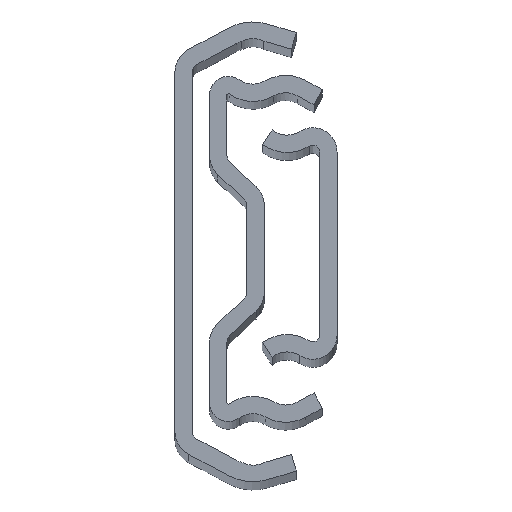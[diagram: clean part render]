
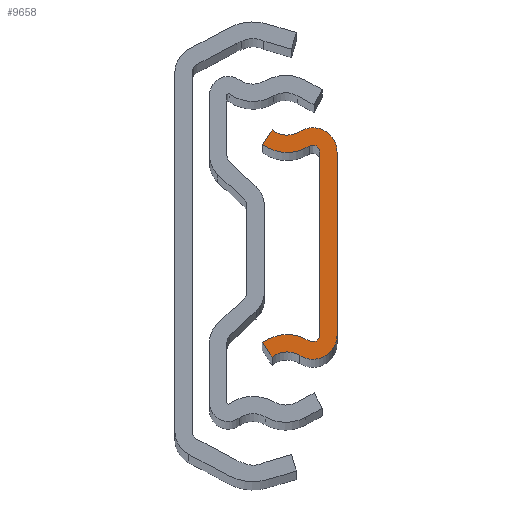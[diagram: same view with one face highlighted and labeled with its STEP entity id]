
A CAD part, top view. The second image highlights one B-rep face of the part: STEP entity #9658.
In plain terms, the highlighted planar face has unit normal (0, 0, 1).
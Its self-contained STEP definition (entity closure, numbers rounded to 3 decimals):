
#332 = CIRCLE ( 'NONE', #25369, 2.8 ) ;
#706 = CARTESIAN_POINT ( 'NONE',  ( 2.306, -10.55, 0. ) ) ;
#930 = LINE ( 'NONE', #8734, #22789 ) ;
#1476 = CARTESIAN_POINT ( 'NONE',  ( -4.306, -11.422, 0. ) ) ;
#1478 = CARTESIAN_POINT ( 'NONE',  ( -4.306, 11.422, 0. ) ) ;
#1995 = VERTEX_POINT ( 'NONE', #706 ) ;
#2570 = ORIENTED_EDGE ( 'NONE', *, *, #6383, .T. ) ;
#2677 = ORIENTED_EDGE ( 'NONE', *, *, #29699, .T. ) ;
#2701 = VERTEX_POINT ( 'NONE', #17587 ) ;
#3026 = ORIENTED_EDGE ( 'NONE', *, *, #22256, .T. ) ;
#3531 = DIRECTION ( 'NONE',  ( 0., -1., 0. ) ) ;
#3767 = ORIENTED_EDGE ( 'NONE', *, *, #20465, .T. ) ;
#3966 = FACE_OUTER_BOUND ( 'NONE', #13286, .T. ) ;
#5823 = DIRECTION ( 'NONE',  ( 0., 0., 1. ) ) ;
#6023 = VECTOR ( 'NONE', #10084, 1000. ) ;
#6180 = CARTESIAN_POINT ( 'NONE',  ( -3.194, -13.089, 0. ) ) ;
#6383 = EDGE_CURVE ( 'NONE', #11587, #34722, #29855, .T. ) ;
#6600 = VERTEX_POINT ( 'NONE', #34431 ) ;
#6978 = CARTESIAN_POINT ( 'NONE',  ( 4.306, -10.55, 0. ) ) ;
#7600 = VECTOR ( 'NONE', #9722, 1000. ) ;
#7649 = CARTESIAN_POINT ( 'NONE',  ( -1.47, -15.294, 0. ) ) ;
#7852 = CARTESIAN_POINT ( 'NONE',  ( 1.506, -10.55, 0. ) ) ;
#8734 = CARTESIAN_POINT ( 'NONE',  ( 2.306, -10.55, 0. ) ) ;
#8947 = CARTESIAN_POINT ( 'NONE',  ( -1.47, 15.294, 0. ) ) ;
#9142 = CARTESIAN_POINT ( 'NONE',  ( -1.47, -15.294, 0. ) ) ;
#9329 = DIRECTION ( 'NONE',  ( 0., 0., 1. ) ) ;
#9484 = VERTEX_POINT ( 'NONE', #17066 ) ;
#9658 = ADVANCED_FACE ( 'Face2', ( #3966 ), #10001, .T. ) ;
#9722 = DIRECTION ( 'NONE',  ( -0.555, -0.832, 0. ) ) ;
#9931 = VERTEX_POINT ( 'NONE', #30492 ) ;
#10001 = PLANE ( 'NONE',  #16508 ) ;
#10067 = DIRECTION ( 'NONE',  ( 0.555, -0.832, 0. ) ) ;
#10084 = DIRECTION ( 'NONE',  ( 0., 1., 0. ) ) ;
#10099 = EDGE_CURVE ( 'NONE', #34722, #31664, #11911, .T. ) ;
#11587 = VERTEX_POINT ( 'NONE', #18013 ) ;
#11631 = CARTESIAN_POINT ( 'NONE',  ( -4.306, -11.422, 0. ) ) ;
#11911 = LINE ( 'NONE', #1476, #25822 ) ;
#11926 = EDGE_CURVE ( 'NONE', #17133, #6600, #26123, .T. ) ;
#12359 = CARTESIAN_POINT ( 'NONE',  ( 0.018, 12.922, 0. ) ) ;
#13286 = EDGE_LOOP ( 'NONE', ( #14045, #3026, #19165, #14847, #20952, #3767, #27757, #32532, #22693, #2677, #2570, #34050 ) ) ;
#13625 = AXIS2_PLACEMENT_3D ( 'NONE', #8947, #30306, #27736 ) ;
#14045 = ORIENTED_EDGE ( 'NONE', *, *, #19529, .T. ) ;
#14254 = AXIS2_PLACEMENT_3D ( 'NONE', #31358, #34249, #15270 ) ;
#14517 = DIRECTION ( 'NONE',  ( 0., 0., 1. ) ) ;
#14710 = LINE ( 'NONE', #1478, #7600 ) ;
#14847 = ORIENTED_EDGE ( 'NONE', *, *, #24728, .T. ) ;
#15270 = DIRECTION ( 'NONE',  ( 1., 0., 0. ) ) ;
#15626 = CIRCLE ( 'NONE', #14254, 2.8 ) ;
#15711 = LINE ( 'NONE', #25940, #6023 ) ;
#15744 = CARTESIAN_POINT ( 'NONE',  ( 2.306, 10.55, 0. ) ) ;
#15952 = DIRECTION ( 'NONE',  ( 0., 0., -1. ) ) ;
#16508 = AXIS2_PLACEMENT_3D ( 'NONE', #7649, #28990, #31694 ) ;
#17066 = CARTESIAN_POINT ( 'NONE',  ( -4.306, 11.422, 0. ) ) ;
#17133 = VERTEX_POINT ( 'NONE', #12359 ) ;
#17587 = CARTESIAN_POINT ( 'NONE',  ( 0.018, -12.922, 0. ) ) ;
#17591 = AXIS2_PLACEMENT_3D ( 'NONE', #7852, #15952, #23923 ) ;
#17769 = DIRECTION ( 'NONE',  ( -1., 0., 0. ) ) ;
#18013 = CARTESIAN_POINT ( 'NONE',  ( 1.081, -11.228, 0. ) ) ;
#18147 = CIRCLE ( 'NONE', #33953, 0.8 ) ;
#19130 = CIRCLE ( 'NONE', #33899, 4.8 ) ;
#19165 = ORIENTED_EDGE ( 'NONE', *, *, #32348, .T. ) ;
#19278 = CARTESIAN_POINT ( 'NONE',  ( 1.081, 11.228, 0. ) ) ;
#19529 = EDGE_CURVE ( 'NONE', #31664, #2701, #15626, .T. ) ;
#20062 = AXIS2_PLACEMENT_3D ( 'NONE', #9142, #14517, #33287 ) ;
#20465 = EDGE_CURVE ( 'NONE', #6600, #9484, #14710, .T. ) ;
#20952 = ORIENTED_EDGE ( 'NONE', *, *, #11926, .T. ) ;
#21140 = DIRECTION ( 'NONE',  ( -1., 0., 0. ) ) ;
#21669 = VERTEX_POINT ( 'NONE', #15744 ) ;
#21696 = CARTESIAN_POINT ( 'NONE',  ( -1.47, 15.294, 0. ) ) ;
#22256 = EDGE_CURVE ( 'NONE', #2701, #33079, #26117, .T. ) ;
#22693 = ORIENTED_EDGE ( 'NONE', *, *, #28761, .T. ) ;
#22789 = VECTOR ( 'NONE', #3531, 1000. ) ;
#22829 = CIRCLE ( 'NONE', #17591, 0.8 ) ;
#23906 = CARTESIAN_POINT ( 'NONE',  ( 1.506, -10.55, 0. ) ) ;
#23923 = DIRECTION ( 'NONE',  ( 1., 0., 0. ) ) ;
#24725 = DIRECTION ( 'NONE',  ( 1., 0., 0. ) ) ;
#24728 = EDGE_CURVE ( 'NONE', #9931, #17133, #332, .T. ) ;
#25369 = AXIS2_PLACEMENT_3D ( 'NONE', #25425, #9329, #17769 ) ;
#25425 = CARTESIAN_POINT ( 'NONE',  ( 1.506, 10.55, 0. ) ) ;
#25822 = VECTOR ( 'NONE', #10067, 1000. ) ;
#25940 = CARTESIAN_POINT ( 'NONE',  ( 4.306, -10.55, 0. ) ) ;
#26117 = CIRCLE ( 'NONE', #26445, 2.8 ) ;
#26123 = CIRCLE ( 'NONE', #13625, 2.8 ) ;
#26445 = AXIS2_PLACEMENT_3D ( 'NONE', #23906, #5823, #24725 ) ;
#26599 = EDGE_CURVE ( 'NONE', #9484, #33467, #19130, .T. ) ;
#26669 = CARTESIAN_POINT ( 'NONE',  ( 1.506, 10.55, 0. ) ) ;
#27240 = DIRECTION ( 'NONE',  ( 0., 0., 1. ) ) ;
#27362 = DIRECTION ( 'NONE',  ( -1., 0., 0. ) ) ;
#27736 = DIRECTION ( 'NONE',  ( -1., 0., 0. ) ) ;
#27757 = ORIENTED_EDGE ( 'NONE', *, *, #26599, .T. ) ;
#28761 = EDGE_CURVE ( 'NONE', #21669, #1995, #930, .T. ) ;
#28990 = DIRECTION ( 'NONE',  ( 0., 0., 1. ) ) ;
#29085 = EDGE_CURVE ( 'NONE', #33467, #21669, #18147, .T. ) ;
#29467 = DIRECTION ( 'NONE',  ( 0., 0., -1. ) ) ;
#29699 = EDGE_CURVE ( 'NONE', #1995, #11587, #22829, .T. ) ;
#29855 = CIRCLE ( 'NONE', #20062, 4.8 ) ;
#30306 = DIRECTION ( 'NONE',  ( 0., 0., -1. ) ) ;
#30492 = CARTESIAN_POINT ( 'NONE',  ( 4.306, 10.55, 0. ) ) ;
#31358 = CARTESIAN_POINT ( 'NONE',  ( -1.47, -15.294, 0. ) ) ;
#31664 = VERTEX_POINT ( 'NONE', #6180 ) ;
#31694 = DIRECTION ( 'NONE',  ( 1., 0., 0. ) ) ;
#32348 = EDGE_CURVE ( 'NONE', #33079, #9931, #15711, .T. ) ;
#32532 = ORIENTED_EDGE ( 'NONE', *, *, #29085, .T. ) ;
#33079 = VERTEX_POINT ( 'NONE', #6978 ) ;
#33287 = DIRECTION ( 'NONE',  ( 1., 0., 0. ) ) ;
#33467 = VERTEX_POINT ( 'NONE', #19278 ) ;
#33899 = AXIS2_PLACEMENT_3D ( 'NONE', #21696, #27240, #27362 ) ;
#33953 = AXIS2_PLACEMENT_3D ( 'NONE', #26669, #29467, #21140 ) ;
#34050 = ORIENTED_EDGE ( 'NONE', *, *, #10099, .T. ) ;
#34249 = DIRECTION ( 'NONE',  ( 0., 0., -1. ) ) ;
#34431 = CARTESIAN_POINT ( 'NONE',  ( -3.194, 13.089, 0. ) ) ;
#34722 = VERTEX_POINT ( 'NONE', #11631 ) ;
